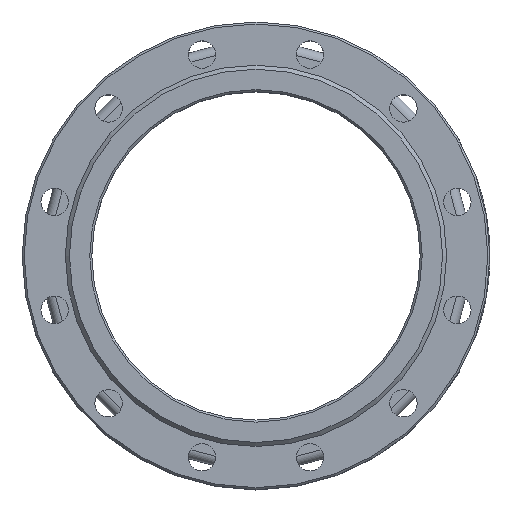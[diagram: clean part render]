
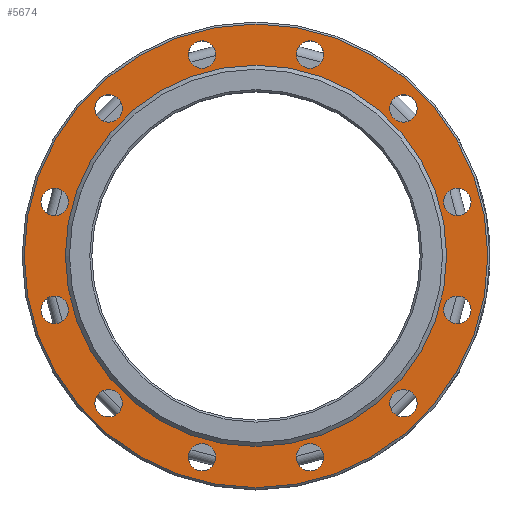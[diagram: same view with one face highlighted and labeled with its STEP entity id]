
A CAD part, top view. The second image highlights one B-rep face of the part: STEP entity #5674.
In plain terms, the highlighted planar face has unit normal (0, 0, 1).
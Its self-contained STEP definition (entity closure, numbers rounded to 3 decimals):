
#175=FACE_BOUND('',#1024,.T.);
#176=FACE_BOUND('',#1025,.T.);
#177=FACE_BOUND('',#1026,.T.);
#178=FACE_BOUND('',#1027,.T.);
#179=FACE_BOUND('',#1028,.T.);
#180=FACE_BOUND('',#1029,.T.);
#181=FACE_BOUND('',#1030,.T.);
#182=FACE_BOUND('',#1031,.T.);
#183=FACE_BOUND('',#1032,.T.);
#184=FACE_BOUND('',#1033,.T.);
#185=FACE_BOUND('',#1034,.T.);
#186=FACE_BOUND('',#1035,.T.);
#187=FACE_BOUND('',#1036,.T.);
#424=PLANE('',#6081);
#681=FACE_OUTER_BOUND('',#1023,.T.);
#1023=EDGE_LOOP('',(#4783));
#1024=EDGE_LOOP('',(#4784));
#1025=EDGE_LOOP('',(#4785));
#1026=EDGE_LOOP('',(#4786));
#1027=EDGE_LOOP('',(#4787));
#1028=EDGE_LOOP('',(#4788));
#1029=EDGE_LOOP('',(#4789));
#1030=EDGE_LOOP('',(#4790));
#1031=EDGE_LOOP('',(#4791));
#1032=EDGE_LOOP('',(#4792));
#1033=EDGE_LOOP('',(#4793));
#1034=EDGE_LOOP('',(#4794));
#1035=EDGE_LOOP('',(#4795));
#1036=EDGE_LOOP('',(#4796));
#1489=CIRCLE('',#6080,228.);
#1490=CIRCLE('',#6082,13.5);
#1491=CIRCLE('',#6083,13.5);
#1492=CIRCLE('',#6084,13.5);
#1493=CIRCLE('',#6085,187.5);
#1494=CIRCLE('',#6086,13.5);
#1495=CIRCLE('',#6087,13.5);
#1496=CIRCLE('',#6088,13.5);
#1497=CIRCLE('',#6089,13.5);
#1498=CIRCLE('',#6090,13.5);
#1499=CIRCLE('',#6091,13.5);
#1500=CIRCLE('',#6092,13.5);
#1501=CIRCLE('',#6093,13.5);
#1502=CIRCLE('',#6094,13.5);
#2653=VERTEX_POINT('',#12469);
#2654=VERTEX_POINT('',#12473);
#2655=VERTEX_POINT('',#12475);
#2656=VERTEX_POINT('',#12477);
#2657=VERTEX_POINT('',#12479);
#2658=VERTEX_POINT('',#12481);
#2659=VERTEX_POINT('',#12483);
#2660=VERTEX_POINT('',#12485);
#2661=VERTEX_POINT('',#12487);
#2662=VERTEX_POINT('',#12489);
#2663=VERTEX_POINT('',#12491);
#2664=VERTEX_POINT('',#12493);
#2665=VERTEX_POINT('',#12495);
#2666=VERTEX_POINT('',#12497);
#3377=EDGE_CURVE('',#2653,#2653,#1489,.T.);
#3378=EDGE_CURVE('',#2654,#2654,#1490,.T.);
#3379=EDGE_CURVE('',#2655,#2655,#1491,.T.);
#3380=EDGE_CURVE('',#2656,#2656,#1492,.T.);
#3381=EDGE_CURVE('',#2657,#2657,#1493,.T.);
#3382=EDGE_CURVE('',#2658,#2658,#1494,.T.);
#3383=EDGE_CURVE('',#2659,#2659,#1495,.T.);
#3384=EDGE_CURVE('',#2660,#2660,#1496,.T.);
#3385=EDGE_CURVE('',#2661,#2661,#1497,.T.);
#3386=EDGE_CURVE('',#2662,#2662,#1498,.T.);
#3387=EDGE_CURVE('',#2663,#2663,#1499,.T.);
#3388=EDGE_CURVE('',#2664,#2664,#1500,.T.);
#3389=EDGE_CURVE('',#2665,#2665,#1501,.T.);
#3390=EDGE_CURVE('',#2666,#2666,#1502,.T.);
#4783=ORIENTED_EDGE('',*,*,#3377,.T.);
#4784=ORIENTED_EDGE('',*,*,#3378,.T.);
#4785=ORIENTED_EDGE('',*,*,#3379,.T.);
#4786=ORIENTED_EDGE('',*,*,#3380,.T.);
#4787=ORIENTED_EDGE('',*,*,#3381,.T.);
#4788=ORIENTED_EDGE('',*,*,#3382,.T.);
#4789=ORIENTED_EDGE('',*,*,#3383,.T.);
#4790=ORIENTED_EDGE('',*,*,#3384,.T.);
#4791=ORIENTED_EDGE('',*,*,#3385,.T.);
#4792=ORIENTED_EDGE('',*,*,#3386,.T.);
#4793=ORIENTED_EDGE('',*,*,#3387,.T.);
#4794=ORIENTED_EDGE('',*,*,#3388,.T.);
#4795=ORIENTED_EDGE('',*,*,#3389,.T.);
#4796=ORIENTED_EDGE('',*,*,#3390,.T.);
#5674=ADVANCED_FACE('',(#681,#175,#176,#177,#178,#179,#180,#181,#182,#183,
#184,#185,#186,#187),#424,.F.);
#6080=AXIS2_PLACEMENT_3D('',#12471,#7176,#7177);
#6081=AXIS2_PLACEMENT_3D('',#12472,#7178,#7179);
#6082=AXIS2_PLACEMENT_3D('',#12474,#7180,#7181);
#6083=AXIS2_PLACEMENT_3D('',#12476,#7182,#7183);
#6084=AXIS2_PLACEMENT_3D('',#12478,#7184,#7185);
#6085=AXIS2_PLACEMENT_3D('',#12480,#7186,#7187);
#6086=AXIS2_PLACEMENT_3D('',#12482,#7188,#7189);
#6087=AXIS2_PLACEMENT_3D('',#12484,#7190,#7191);
#6088=AXIS2_PLACEMENT_3D('',#12486,#7192,#7193);
#6089=AXIS2_PLACEMENT_3D('',#12488,#7194,#7195);
#6090=AXIS2_PLACEMENT_3D('',#12490,#7196,#7197);
#6091=AXIS2_PLACEMENT_3D('',#12492,#7198,#7199);
#6092=AXIS2_PLACEMENT_3D('',#12494,#7200,#7201);
#6093=AXIS2_PLACEMENT_3D('',#12496,#7202,#7203);
#6094=AXIS2_PLACEMENT_3D('',#12498,#7204,#7205);
#7176=DIRECTION('center_axis',(0.,0.,1.));
#7177=DIRECTION('ref_axis',(0.,1.,0.));
#7178=DIRECTION('center_axis',(0.,0.,-1.));
#7179=DIRECTION('ref_axis',(-1.,0.,0.));
#7180=DIRECTION('center_axis',(0.,0.,-1.));
#7181=DIRECTION('ref_axis',(-1.,0.,0.));
#7182=DIRECTION('center_axis',(0.,0.,-1.));
#7183=DIRECTION('ref_axis',(-1.,0.,0.));
#7184=DIRECTION('center_axis',(0.,0.,-1.));
#7185=DIRECTION('ref_axis',(-1.,0.,0.));
#7186=DIRECTION('center_axis',(0.,0.,-1.));
#7187=DIRECTION('ref_axis',(1.,0.,0.));
#7188=DIRECTION('center_axis',(0.,0.,-1.));
#7189=DIRECTION('ref_axis',(-1.,0.,0.));
#7190=DIRECTION('center_axis',(0.,0.,-1.));
#7191=DIRECTION('ref_axis',(-1.,0.,0.));
#7192=DIRECTION('center_axis',(0.,0.,-1.));
#7193=DIRECTION('ref_axis',(-1.,0.,0.));
#7194=DIRECTION('center_axis',(0.,0.,-1.));
#7195=DIRECTION('ref_axis',(-1.,0.,0.));
#7196=DIRECTION('center_axis',(0.,0.,-1.));
#7197=DIRECTION('ref_axis',(-1.,0.,0.));
#7198=DIRECTION('center_axis',(0.,0.,-1.));
#7199=DIRECTION('ref_axis',(-1.,0.,0.));
#7200=DIRECTION('center_axis',(0.,0.,-1.));
#7201=DIRECTION('ref_axis',(-1.,0.,0.));
#7202=DIRECTION('center_axis',(0.,0.,-1.));
#7203=DIRECTION('ref_axis',(-1.,0.,0.));
#7204=DIRECTION('center_axis',(0.,0.,-1.));
#7205=DIRECTION('ref_axis',(-1.,0.,0.));
#12469=CARTESIAN_POINT('',(0.,-228.,76.));
#12471=CARTESIAN_POINT('Origin',(0.,0.,76.));
#12472=CARTESIAN_POINT('Origin',(0.,0.,76.));
#12473=CARTESIAN_POINT('',(66.558,198.015,76.));
#12474=CARTESIAN_POINT('Origin',(53.058,198.015,76.));
#12475=CARTESIAN_POINT('',(-39.558,198.015,76.));
#12476=CARTESIAN_POINT('Origin',(-53.058,198.015,76.));
#12477=CARTESIAN_POINT('',(-131.457,144.957,76.));
#12478=CARTESIAN_POINT('Origin',(-144.957,144.957,76.));
#12479=CARTESIAN_POINT('',(-187.5,0.,76.));
#12480=CARTESIAN_POINT('Origin',(0.,0.,76.));
#12481=CARTESIAN_POINT('',(-184.515,53.058,76.));
#12482=CARTESIAN_POINT('Origin',(-198.015,53.058,76.));
#12483=CARTESIAN_POINT('',(211.515,-53.058,76.));
#12484=CARTESIAN_POINT('Origin',(198.015,-53.058,76.));
#12485=CARTESIAN_POINT('',(211.515,53.058,76.));
#12486=CARTESIAN_POINT('Origin',(198.015,53.058,76.));
#12487=CARTESIAN_POINT('',(-39.558,-198.015,76.));
#12488=CARTESIAN_POINT('Origin',(-53.058,-198.015,76.));
#12489=CARTESIAN_POINT('',(-184.515,-53.058,76.));
#12490=CARTESIAN_POINT('Origin',(-198.015,-53.058,76.));
#12491=CARTESIAN_POINT('',(158.457,-144.957,76.));
#12492=CARTESIAN_POINT('Origin',(144.957,-144.957,76.));
#12493=CARTESIAN_POINT('',(158.457,144.957,76.));
#12494=CARTESIAN_POINT('Origin',(144.957,144.957,76.));
#12495=CARTESIAN_POINT('',(66.558,-198.015,76.));
#12496=CARTESIAN_POINT('Origin',(53.058,-198.015,76.));
#12497=CARTESIAN_POINT('',(-131.457,-144.957,76.));
#12498=CARTESIAN_POINT('Origin',(-144.957,-144.957,76.));
